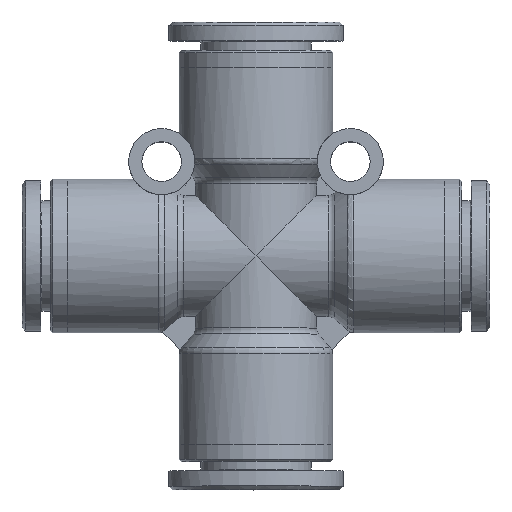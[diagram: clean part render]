
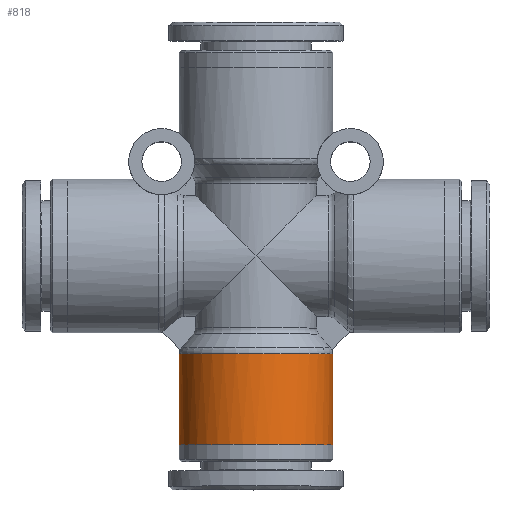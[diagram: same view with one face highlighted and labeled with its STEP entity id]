
A CAD part, top view. The second image highlights one B-rep face of the part: STEP entity #818.
In plain terms, the highlighted cylindrical face has radius 8.15 mm (diameter 16.3 mm), a full revolution.
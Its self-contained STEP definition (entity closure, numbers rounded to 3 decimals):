
#741=CARTESIAN_POINT('',(8.15,-10.359,0.0));
#742=VERTEX_POINT('',#741);
#743=CARTESIAN_POINT('',(0.,-10.359,0.0));
#744=DIRECTION('',(0.0,1.0,0.0));
#745=DIRECTION('',(-1.0,0.0,0.0));
#746=AXIS2_PLACEMENT_3D('',#743,#744,#745);
#747=CIRCLE('',#746,8.15);
#748=EDGE_CURVE('',#742,#742,#747,.T.);
#799=CARTESIAN_POINT('',(0.,-15.0,0.0));
#800=DIRECTION('',(0.,1.0,0.0));
#801=DIRECTION('',(1.0,0.0,0.0));
#802=AXIS2_PLACEMENT_3D('',#799,#800,#801);
#803=CYLINDRICAL_SURFACE('',#802,8.15);
#804=CARTESIAN_POINT('',(8.15,-20.0,0.0));
#805=VERTEX_POINT('',#804);
#806=CARTESIAN_POINT('',(0.,-20.0,0.0));
#807=DIRECTION('',(0.0,1.0,0.0));
#808=DIRECTION('',(1.0,0.0,0.0));
#809=AXIS2_PLACEMENT_3D('',#806,#807,#808);
#810=CIRCLE('',#809,8.15);
#811=EDGE_CURVE('',#805,#805,#810,.T.);
#812=ORIENTED_EDGE('',*,*,#811,.T.);
#813=EDGE_LOOP('',(#812));
#814=FACE_OUTER_BOUND('',#813,.T.);
#815=ORIENTED_EDGE('',*,*,#748,.F.);
#816=EDGE_LOOP('',(#815));
#817=FACE_BOUND('',#816,.T.);
#818=ADVANCED_FACE('',(#814,#817),#803,.T.);
